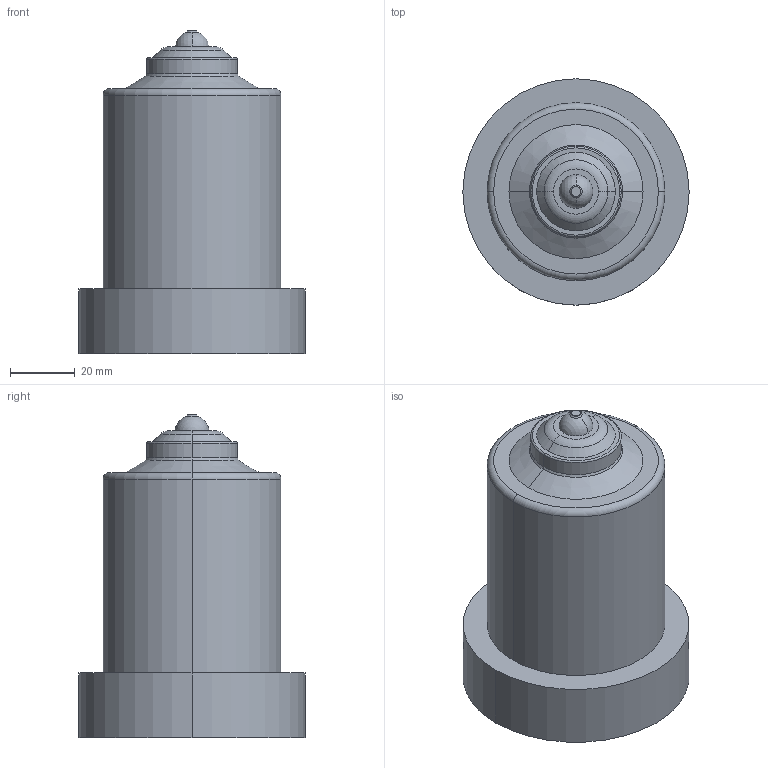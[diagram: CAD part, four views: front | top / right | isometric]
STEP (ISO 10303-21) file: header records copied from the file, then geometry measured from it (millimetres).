
FILE_DESCRIPTION (( 'STEP AP214' ), '1' );
FILE_NAME ('22E-06-100-TTW.STEP', '2022-01-10T08:52:34', ( '' ), ( '' ), 'SwSTEP 2.0', 'SolidWorks 2018', '' );
FILE_SCHEMA (( 'AUTOMOTIVE_DESIGN' ));
Length unit declared in the file: millimetre
Products named in the file (2): cutout_22E-06-100-TTW; 22E-06-100-TTW
Assembly tree (1 placements, depth 2):
  22E-06-100-TTW
    cutout_22E-06-100-TTW
Bounding box: 70 x 70 x 100 mm (x, y, z)
Volume: 232812 mm3; surface area: 23389.2 mm2
Topology: 1 solids, 1 shells, 30 faces, 60 edges, 36 vertices
Faces by surface type: cylinder 8, cone 8, torus 6, plane 6, sphere 2
Entity records: 858 total; most frequent: DIRECTION 172, CARTESIAN_POINT 130, ORIENTED_EDGE 120, AXIS2_PLACEMENT_3D 78, EDGE_CURVE 60, CIRCLE 44, VERTEX_POINT 36, EDGE_LOOP 34
